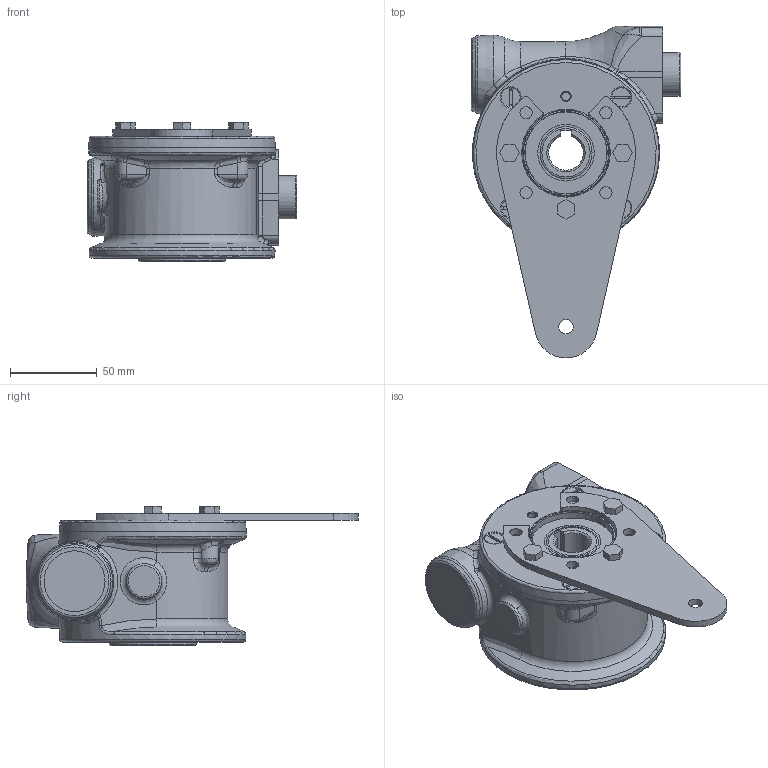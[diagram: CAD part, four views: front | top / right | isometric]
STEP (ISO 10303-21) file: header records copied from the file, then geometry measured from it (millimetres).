
FILE_DESCRIPTION( ( 'Unknown' ), '1' );
FILE_NAME( 'E:/services/configuratordownloads/customers/CLEANGEARTECH/VFD/download/734B89EA7BFAAB7985D65E20185B13B3/STEP/734B89EA7BFAAB7985D65E20185B13B3.3d.stp', 'Unknown', ( 'Unknown' ), ( 'Unknown' ), 'PSStep 10.1', 'Unknown', ' ' );
FILE_SCHEMA( ( 'AUTOMOTIVE_DESIGN { 1 0 10303 214 1 1 1 1 }' ) );
Length unit declared in the file: millimetre
Products named in the file (1): D458800
Bounding box: 120.5 x 190.94 x 80 mm (x, y, z)
Volume: 647233.8 mm3; surface area: 71210.8 mm2
Topology: 1 solids, 8 shells, 343 faces, 784 edges, 487 vertices
Faces by surface type: plane 119, cylinder 81, bspline 77, cone 44, torus 22
Full cylindrical faces by diameter (mm): 4.917 x16, 5.6 x4, 6 x4, 7 x7, 8.2 x1, 25 x1, 30 x2, 32.5 x2, 35 x1, 47 x3, 50 x2
Entity records: 14315 total; most frequent: CARTESIAN_POINT 4897, DIRECTION 1313, ORIENTED_EDGE 1296, EDGE_CURVE 648, AXIS2_PLACEMENT_3D 569, EDGE_LOOP 477, VERTEX_POINT 445, FACE_OUTER_BOUND 397
